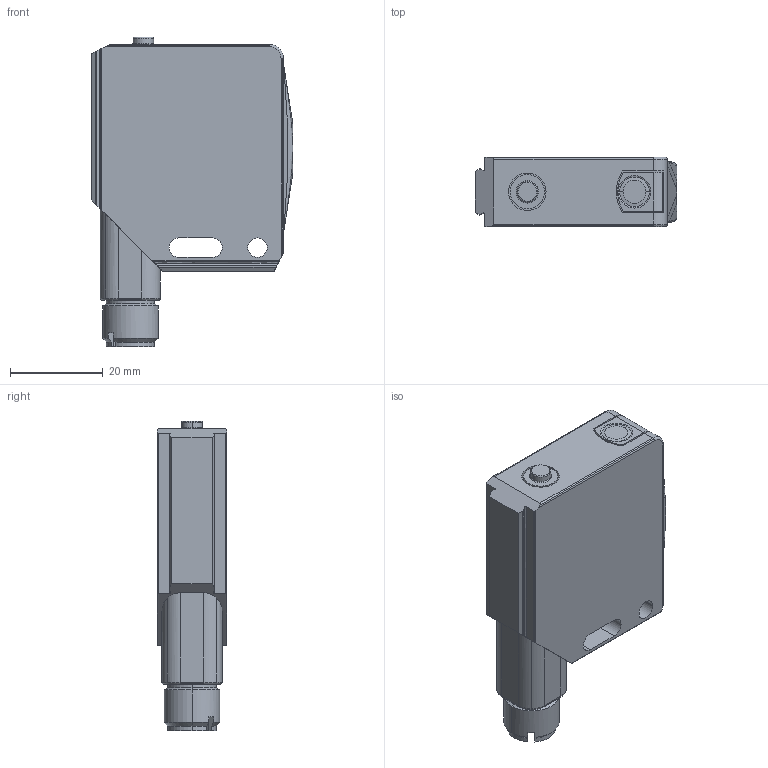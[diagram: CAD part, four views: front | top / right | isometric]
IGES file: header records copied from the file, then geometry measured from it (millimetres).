
Global section: file name: No Iges File Name specified; native system: AutoDesk Inventor R6.1; preprocessor: AutoDesk Inventor Iges Exporter R6.1; author: No Author specified; organization: No Organization specified; date: 20050823.161512; units: millimetre
Bounding box: 43.51 x 15 x 66.85 mm (x, y, z)
Volume: 30265.1 mm3; surface area: 8302.4 mm2
Topology: 1 solids, 1 shells, 179 faces, 466 edges, 293 vertices
Faces by surface type: cylinder 62, plane 56, revolution 24, cone 11, sphere 10, torus 8, bspline 8
